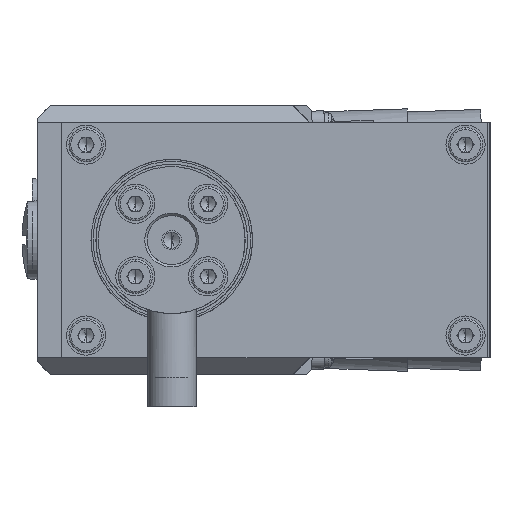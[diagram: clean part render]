
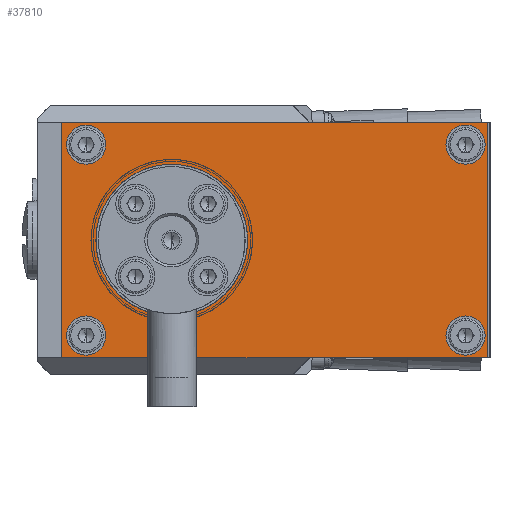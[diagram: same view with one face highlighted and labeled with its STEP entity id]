
A CAD part, left-side view. The second image highlights one B-rep face of the part: STEP entity #37810.
In plain terms, the highlighted planar face has unit normal (-1, 0, 0).
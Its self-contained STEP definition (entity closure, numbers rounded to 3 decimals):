
#1265 = DIRECTION ( 'NONE',  ( 0., 1., 0. ) ) ;
#2349 = DIRECTION ( 'NONE',  ( 0., 0., 1. ) ) ;
#2509 = CARTESIAN_POINT ( 'NONE',  ( -106.001, 54.379, 2.182 ) ) ;
#2667 = ORIENTED_EDGE ( 'NONE', *, *, #56319, .T. ) ;
#3064 = DIRECTION ( 'NONE',  ( -1., 0., 0. ) ) ;
#3827 = CARTESIAN_POINT ( 'NONE',  ( -106.001, 54.379, 2.182 ) ) ;
#4576 = EDGE_CURVE ( 'NONE', #25972, #47635, #12492, .T. ) ;
#5088 = CIRCLE ( 'NONE', #40690, 4. ) ;
#5581 = CARTESIAN_POINT ( 'NONE',  ( -106.001, -27.621, -2.318 ) ) ;
#5902 = CARTESIAN_POINT ( 'NONE',  ( -106.001, 54.379, 41.182 ) ) ;
#5914 = CIRCLE ( 'NONE', #25279, 4. ) ;
#6282 = ORIENTED_EDGE ( 'NONE', *, *, #28578, .F. ) ;
#6377 = EDGE_CURVE ( 'NONE', #43898, #29601, #24685, .T. ) ;
#6570 = CARTESIAN_POINT ( 'NONE',  ( -106.001, 59.379, 45.682 ) ) ;
#7057 = CARTESIAN_POINT ( 'NONE',  ( -106.001, -27.621, -2.318 ) ) ;
#7685 = FACE_BOUND ( 'NONE', #28407, .T. ) ;
#7979 = DIRECTION ( 'NONE',  ( 0., 0., 1. ) ) ;
#9452 = DIRECTION ( 'NONE',  ( 0., 0., 1. ) ) ;
#9756 = VECTOR ( 'NONE', #2349, 1000. ) ;
#10121 = AXIS2_PLACEMENT_3D ( 'NONE', #5902, #19306, #9452 ) ;
#10829 = EDGE_CURVE ( 'NONE', #25507, #16939, #50400, .T. ) ;
#11018 = VERTEX_POINT ( 'NONE', #29377 ) ;
#12492 = CIRCLE ( 'NONE', #21608, 4. ) ;
#12580 = CARTESIAN_POINT ( 'NONE',  ( -106.001, -23.121, 2.182 ) ) ;
#12647 = DIRECTION ( 'NONE',  ( 0., 0., 1. ) ) ;
#13066 = DIRECTION ( 'NONE',  ( 0., 0., 1. ) ) ;
#13114 = FACE_BOUND ( 'NONE', #48852, .T. ) ;
#13428 = FACE_OUTER_BOUND ( 'NONE', #34658, .T. ) ;
#13706 = VERTEX_POINT ( 'NONE', #55456 ) ;
#13791 = CARTESIAN_POINT ( 'NONE',  ( -106.001, -27.621, -2.318 ) ) ;
#14554 = CARTESIAN_POINT ( 'NONE',  ( -106.001, 36.879, 21.682 ) ) ;
#14901 = AXIS2_PLACEMENT_3D ( 'NONE', #14554, #44148, #52746 ) ;
#15824 = AXIS2_PLACEMENT_3D ( 'NONE', #12580, #22105, #26888 ) ;
#15874 = EDGE_CURVE ( 'NONE', #40633, #11018, #48729, .T. ) ;
#16789 = VECTOR ( 'NONE', #1265, 1000. ) ;
#16939 = VERTEX_POINT ( 'NONE', #18775 ) ;
#16996 = CARTESIAN_POINT ( 'NONE',  ( -106.001, -27.621, 45.682 ) ) ;
#17793 = AXIS2_PLACEMENT_3D ( 'NONE', #7057, #27107, #46511 ) ;
#18015 = EDGE_CURVE ( 'NONE', #13706, #50212, #39798, .T. ) ;
#18775 = CARTESIAN_POINT ( 'NONE',  ( -106.001, -23.121, -1.818 ) ) ;
#19306 = DIRECTION ( 'NONE',  ( -1., 0., 0. ) ) ;
#19954 = ORIENTED_EDGE ( 'NONE', *, *, #42983, .T. ) ;
#20343 = EDGE_CURVE ( 'NONE', #47635, #25972, #5914, .T. ) ;
#20868 = EDGE_LOOP ( 'NONE', ( #41677, #27992 ) ) ;
#21502 = CARTESIAN_POINT ( 'NONE',  ( -106.001, -27.621, 45.682 ) ) ;
#21608 = AXIS2_PLACEMENT_3D ( 'NONE', #2509, #27658, #27339 ) ;
#21894 = VERTEX_POINT ( 'NONE', #57160 ) ;
#22105 = DIRECTION ( 'NONE',  ( -1., 0., 0. ) ) ;
#22528 = CARTESIAN_POINT ( 'NONE',  ( -106.001, 59.379, -2.318 ) ) ;
#24415 = DIRECTION ( 'NONE',  ( 0., 0., 1. ) ) ;
#24685 = CIRCLE ( 'NONE', #32838, 15.5 ) ;
#25174 = EDGE_LOOP ( 'NONE', ( #40814, #38659 ) ) ;
#25279 = AXIS2_PLACEMENT_3D ( 'NONE', #3827, #42387, #7979 ) ;
#25507 = VERTEX_POINT ( 'NONE', #37631 ) ;
#25587 = CARTESIAN_POINT ( 'NONE',  ( -106.001, 54.379, 6.182 ) ) ;
#25972 = VERTEX_POINT ( 'NONE', #58487 ) ;
#26241 = EDGE_LOOP ( 'NONE', ( #28790, #43779 ) ) ;
#26412 = VECTOR ( 'NONE', #56426, 1000. ) ;
#26888 = DIRECTION ( 'NONE',  ( 0., 0., 1. ) ) ;
#27107 = DIRECTION ( 'NONE',  ( 1., 0., 0. ) ) ;
#27296 = EDGE_CURVE ( 'NONE', #31276, #21894, #46088, .T. ) ;
#27319 = CIRCLE ( 'NONE', #35453, 4. ) ;
#27339 = DIRECTION ( 'NONE',  ( 0., 0., 1. ) ) ;
#27658 = DIRECTION ( 'NONE',  ( -1., 0., 0. ) ) ;
#27992 = ORIENTED_EDGE ( 'NONE', *, *, #4576, .F. ) ;
#28407 = EDGE_LOOP ( 'NONE', ( #41637, #6282 ) ) ;
#28578 = EDGE_CURVE ( 'NONE', #29601, #43898, #34215, .T. ) ;
#28686 = ORIENTED_EDGE ( 'NONE', *, *, #27296, .T. ) ;
#28790 = ORIENTED_EDGE ( 'NONE', *, *, #10829, .F. ) ;
#29188 = CARTESIAN_POINT ( 'NONE',  ( -106.001, 54.379, 41.182 ) ) ;
#29377 = CARTESIAN_POINT ( 'NONE',  ( -106.001, 54.379, 37.182 ) ) ;
#29601 = VERTEX_POINT ( 'NONE', #43303 ) ;
#30407 = DIRECTION ( 'NONE',  ( 0., 0., 1. ) ) ;
#31276 = VERTEX_POINT ( 'NONE', #6570 ) ;
#32838 = AXIS2_PLACEMENT_3D ( 'NONE', #50121, #58713, #30407 ) ;
#32900 = LINE ( 'NONE', #13791, #26412 ) ;
#33729 = DIRECTION ( 'NONE',  ( -1., 0., 0. ) ) ;
#34215 = CIRCLE ( 'NONE', #14901, 15.5 ) ;
#34454 = EDGE_CURVE ( 'NONE', #11018, #40633, #42857, .T. ) ;
#34658 = EDGE_LOOP ( 'NONE', ( #2667, #37297, #28686, #19954 ) ) ;
#34713 = CARTESIAN_POINT ( 'NONE',  ( -106.001, 59.379, 45.682 ) ) ;
#34935 = DIRECTION ( 'NONE',  ( 0., 0., 1. ) ) ;
#35453 = AXIS2_PLACEMENT_3D ( 'NONE', #56213, #3064, #12647 ) ;
#35478 = LINE ( 'NONE', #16996, #9756 ) ;
#37297 = ORIENTED_EDGE ( 'NONE', *, *, #38028, .T. ) ;
#37314 = FACE_BOUND ( 'NONE', #25174, .T. ) ;
#37631 = CARTESIAN_POINT ( 'NONE',  ( -106.001, -23.121, 6.182 ) ) ;
#37810 = ADVANCED_FACE ( 'NONE', ( #56999, #46843, #13114, #37314, #7685, #13428 ), #50659, .F. ) ;
#38028 = EDGE_CURVE ( 'NONE', #40074, #31276, #50274, .T. ) ;
#38659 = ORIENTED_EDGE ( 'NONE', *, *, #43316, .F. ) ;
#39718 = CARTESIAN_POINT ( 'NONE',  ( -106.001, -23.121, 41.182 ) ) ;
#39798 = CIRCLE ( 'NONE', #47929, 4. ) ;
#40074 = VERTEX_POINT ( 'NONE', #21502 ) ;
#40633 = VERTEX_POINT ( 'NONE', #51632 ) ;
#40690 = AXIS2_PLACEMENT_3D ( 'NONE', #39718, #54023, #34935 ) ;
#40814 = ORIENTED_EDGE ( 'NONE', *, *, #18015, .F. ) ;
#40907 = CARTESIAN_POINT ( 'NONE',  ( -106.001, -23.121, 37.182 ) ) ;
#41637 = ORIENTED_EDGE ( 'NONE', *, *, #6377, .F. ) ;
#41677 = ORIENTED_EDGE ( 'NONE', *, *, #20343, .F. ) ;
#42387 = DIRECTION ( 'NONE',  ( -1., 0., 0. ) ) ;
#42589 = DIRECTION ( 'NONE',  ( 0., 0., -1. ) ) ;
#42857 = CIRCLE ( 'NONE', #48907, 4. ) ;
#42983 = EDGE_CURVE ( 'NONE', #21894, #44477, #32900, .T. ) ;
#43303 = CARTESIAN_POINT ( 'NONE',  ( -106.001, 36.879, 6.182 ) ) ;
#43316 = EDGE_CURVE ( 'NONE', #50212, #13706, #5088, .T. ) ;
#43445 = EDGE_CURVE ( 'NONE', #16939, #25507, #27319, .T. ) ;
#43779 = ORIENTED_EDGE ( 'NONE', *, *, #43445, .F. ) ;
#43898 = VERTEX_POINT ( 'NONE', #56059 ) ;
#44148 = DIRECTION ( 'NONE',  ( -1., 0., 0. ) ) ;
#44477 = VERTEX_POINT ( 'NONE', #5581 ) ;
#46088 = LINE ( 'NONE', #22528, #47257 ) ;
#46511 = DIRECTION ( 'NONE',  ( 0., 0., -1. ) ) ;
#46843 = FACE_BOUND ( 'NONE', #26241, .T. ) ;
#47257 = VECTOR ( 'NONE', #42589, 1000. ) ;
#47635 = VERTEX_POINT ( 'NONE', #25587 ) ;
#47725 = CARTESIAN_POINT ( 'NONE',  ( -106.001, -23.121, 41.182 ) ) ;
#47929 = AXIS2_PLACEMENT_3D ( 'NONE', #47725, #33729, #13066 ) ;
#48597 = DIRECTION ( 'NONE',  ( -1., 0., 0. ) ) ;
#48729 = CIRCLE ( 'NONE', #10121, 4. ) ;
#48852 = EDGE_LOOP ( 'NONE', ( #49929, #62619 ) ) ;
#48907 = AXIS2_PLACEMENT_3D ( 'NONE', #29188, #48597, #24415 ) ;
#49929 = ORIENTED_EDGE ( 'NONE', *, *, #15874, .F. ) ;
#50121 = CARTESIAN_POINT ( 'NONE',  ( -106.001, 36.879, 21.682 ) ) ;
#50212 = VERTEX_POINT ( 'NONE', #40907 ) ;
#50274 = LINE ( 'NONE', #34713, #16789 ) ;
#50400 = CIRCLE ( 'NONE', #15824, 4. ) ;
#50659 = PLANE ( 'NONE',  #17793 ) ;
#51632 = CARTESIAN_POINT ( 'NONE',  ( -106.001, 54.379, 45.182 ) ) ;
#52746 = DIRECTION ( 'NONE',  ( 0., 0., 1. ) ) ;
#54023 = DIRECTION ( 'NONE',  ( -1., 0., 0. ) ) ;
#55456 = CARTESIAN_POINT ( 'NONE',  ( -106.001, -23.121, 45.182 ) ) ;
#56059 = CARTESIAN_POINT ( 'NONE',  ( -106.001, 36.879, 37.182 ) ) ;
#56213 = CARTESIAN_POINT ( 'NONE',  ( -106.001, -23.121, 2.182 ) ) ;
#56319 = EDGE_CURVE ( 'NONE', #44477, #40074, #35478, .T. ) ;
#56426 = DIRECTION ( 'NONE',  ( 0., -1., 0. ) ) ;
#56999 = FACE_BOUND ( 'NONE', #20868, .T. ) ;
#57160 = CARTESIAN_POINT ( 'NONE',  ( -106.001, 59.379, -2.318 ) ) ;
#58487 = CARTESIAN_POINT ( 'NONE',  ( -106.001, 54.379, -1.818 ) ) ;
#58713 = DIRECTION ( 'NONE',  ( -1., 0., 0. ) ) ;
#62619 = ORIENTED_EDGE ( 'NONE', *, *, #34454, .F. ) ;
